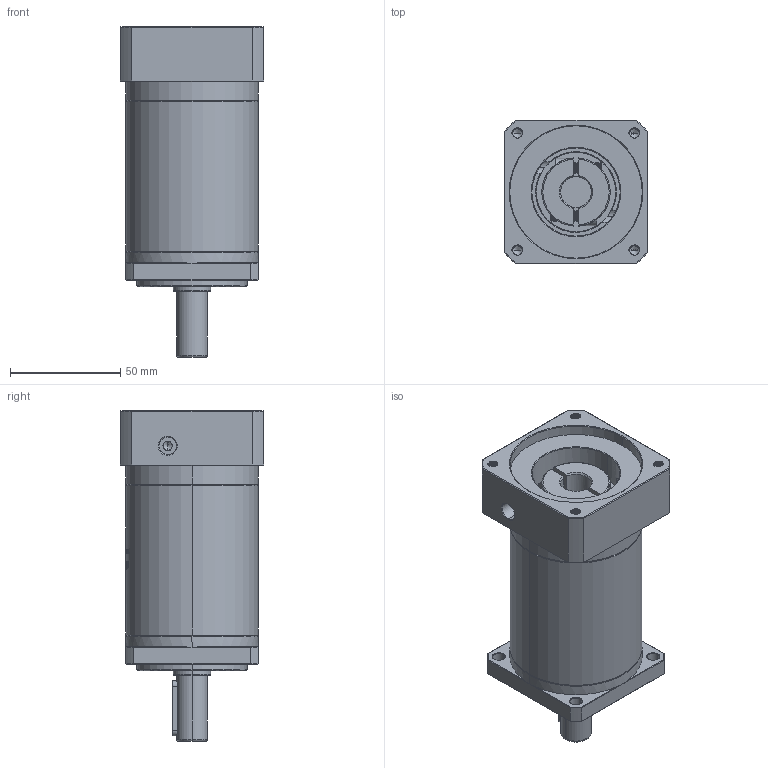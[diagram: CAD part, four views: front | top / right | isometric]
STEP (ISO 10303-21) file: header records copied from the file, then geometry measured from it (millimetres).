
FILE_DESCRIPTION (( 'STEP AP214' ), '1' );
FILE_NAME ('ZF60-D14-L3-14-60-75-M5.STEP', '2022-04-17T11:53:15', ( '' ), ( 'Microsoft' ), 'SwSTEP 2.0', 'SolidWorks 2016', '' );
FILE_SCHEMA (( 'AUTOMOTIVE_DESIGN' ));
Length unit declared in the file: millimetre
Products named in the file (1): ZF60-D14-L3-14-60-75-M5
Bounding box: 65 x 65 x 150 mm (x, y, z)
Volume: 332598 mm3; surface area: 53133.1 mm2
Topology: 6 solids, 6 shells, 1661 faces, 4484 edges, 2900 vertices
Faces by surface type: plane 749, cylinder 359, bspline 299, cone 234, torus 20
Entity records: 94455 total; most frequent: CARTESIAN_POINT 38258, ORIENTED_EDGE 8940, DIRECTION 6571, EDGE_CURVE 4470, VERTEX_POINT 2900, LINE 2279, VECTOR 2279, AXIS2_PLACEMENT_3D 2146
